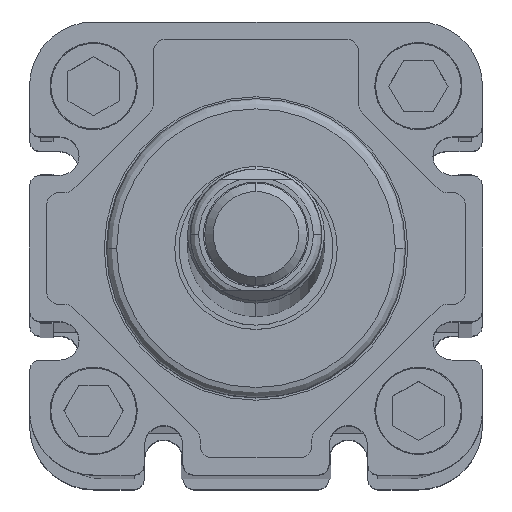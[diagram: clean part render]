
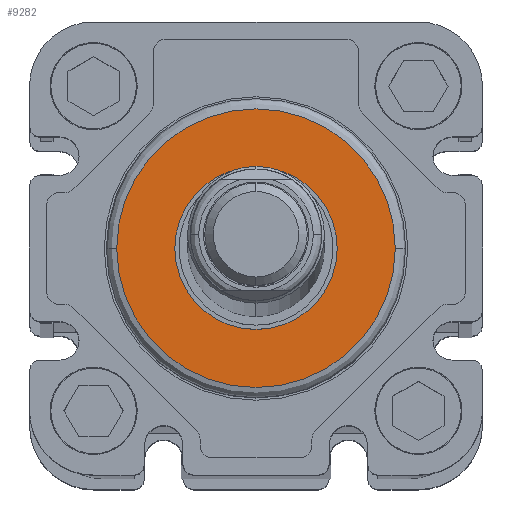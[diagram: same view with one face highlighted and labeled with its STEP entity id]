
A CAD part, top view. The second image highlights one B-rep face of the part: STEP entity #9282.
In plain terms, the highlighted planar face has unit normal (0, 0, 1).
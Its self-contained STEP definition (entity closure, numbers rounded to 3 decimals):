
#1450=CARTESIAN_POINT('',(1.95,-18.25,996.5));
#1451=VERTEX_POINT('',#1450);
#1459=CARTESIAN_POINT('',(34.55,-18.25,996.5));
#1460=VERTEX_POINT('',#1459);
#1461=CARTESIAN_POINT('',(18.25,-18.25,996.5));
#1462=DIRECTION('',(0.0,0.0,-1.0));
#1463=DIRECTION('',(-1.0,0.0,0.0));
#1464=AXIS2_PLACEMENT_3D('',#1461,#1462,#1463);
#1465=CIRCLE('',#1464,16.3);
#1466=EDGE_CURVE('',#1451,#1460,#1465,.T.);
#4424=CARTESIAN_POINT('',(27.75,-18.25,996.5));
#4425=VERTEX_POINT('',#4424);
#4441=CARTESIAN_POINT('',(8.75,-18.25,996.5));
#4442=VERTEX_POINT('',#4441);
#4449=CARTESIAN_POINT('',(18.25,-18.25,996.5));
#4450=DIRECTION('',(0.0,0.0,-1.0));
#4451=DIRECTION('',(1.0,0.0,0.0));
#4452=AXIS2_PLACEMENT_3D('',#4449,#4450,#4451);
#4453=CIRCLE('',#4452,9.5);
#4454=EDGE_CURVE('',#4425,#4442,#4453,.T.);
#4551=CARTESIAN_POINT('',(18.25,-18.25,996.5));
#4552=DIRECTION('',(0.0,0.0,-1.0));
#4553=DIRECTION('',(1.0,0.0,0.0));
#4554=AXIS2_PLACEMENT_3D('',#4551,#4552,#4553);
#4555=CIRCLE('',#4554,9.5);
#4556=EDGE_CURVE('',#4442,#4425,#4555,.T.);
#9247=CARTESIAN_POINT('',(18.25,-18.25,996.5));
#9248=DIRECTION('',(0.0,0.0,-1.0));
#9249=DIRECTION('',(-1.0,0.0,0.0));
#9250=AXIS2_PLACEMENT_3D('',#9247,#9248,#9249);
#9251=CIRCLE('',#9250,16.3);
#9252=EDGE_CURVE('',#1460,#1451,#9251,.T.);
#9269=CARTESIAN_POINT('',(21.25,-21.25,996.5));
#9270=DIRECTION('',(0.0,0.0,1.0));
#9271=DIRECTION('',(1.0,0.0,0.0));
#9272=AXIS2_PLACEMENT_3D('',#9269,#9270,#9271);
#9273=PLANE('',#9272);
#9274=ORIENTED_EDGE('',*,*,#9252,.F.);
#9275=ORIENTED_EDGE('',*,*,#1466,.F.);
#9276=EDGE_LOOP('',(#9274,#9275));
#9277=FACE_OUTER_BOUND('',#9276,.T.);
#9278=ORIENTED_EDGE('',*,*,#4454,.T.);
#9279=ORIENTED_EDGE('',*,*,#4556,.T.);
#9280=EDGE_LOOP('',(#9278,#9279));
#9281=FACE_BOUND('',#9280,.T.);
#9282=ADVANCED_FACE('',(#9277,#9281),#9273,.T.);
